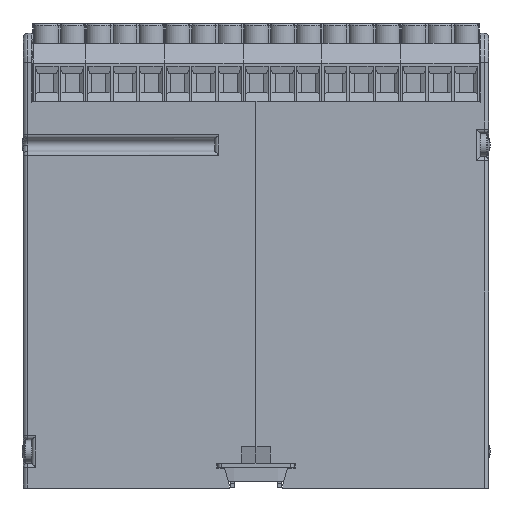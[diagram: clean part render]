
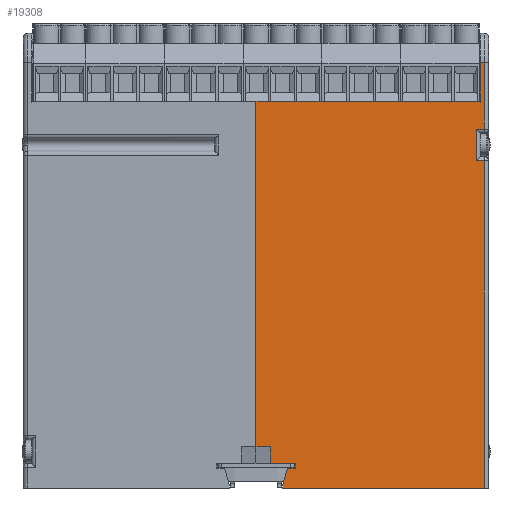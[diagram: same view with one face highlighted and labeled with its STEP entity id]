
A CAD part, front view. The second image highlights one B-rep face of the part: STEP entity #19308.
In plain terms, the highlighted planar face has unit normal (0, -1, 0) as drawn and (1, 0, 0) by its records, which use the part's own axes.
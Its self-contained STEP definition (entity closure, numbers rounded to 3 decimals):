
#410 = FACE_OUTER_BOUND ( 'NONE', #8206, .T. ) ;
#1633 = CARTESIAN_POINT ( 'NONE',  ( 37., -3., 2. ) ) ;
#1638 = PLANE ( 'NONE',  #21026 ) ;
#1643 = DIRECTION ( 'NONE',  ( -1., 0., 0. ) ) ;
#1644 = DIRECTION ( 'NONE',  ( 0., 0., 1. ) ) ;
#6245 = ORIENTED_EDGE ( 'NONE', *, *, #30631, .F. ) ;
#6248 = ORIENTED_EDGE ( 'NONE', *, *, #30629, .F. ) ;
#6250 = ORIENTED_EDGE ( 'NONE', *, *, #30624, .F. ) ;
#6253 = ORIENTED_EDGE ( 'NONE', *, *, #30633, .T. ) ;
#6256 = ORIENTED_EDGE ( 'NONE', *, *, #30618, .T. ) ;
#6258 = ORIENTED_EDGE ( 'NONE', *, *, #30594, .T. ) ;
#6261 = ORIENTED_EDGE ( 'NONE', *, *, #30608, .T. ) ;
#6263 = ORIENTED_EDGE ( 'NONE', *, *, #30612, .T. ) ;
#6266 = ORIENTED_EDGE ( 'NONE', *, *, #30616, .T. ) ;
#6269 = ORIENTED_EDGE ( 'NONE', *, *, #30637, .T. ) ;
#6271 = ORIENTED_EDGE ( 'NONE', *, *, #30627, .F. ) ;
#6274 = ORIENTED_EDGE ( 'NONE', *, *, #30635, .T. ) ;
#6276 = ORIENTED_EDGE ( 'NONE', *, *, #30639, .T. ) ;
#6279 = ORIENTED_EDGE ( 'NONE', *, *, #30641, .T. ) ;
#6282 = ORIENTED_EDGE ( 'NONE', *, *, #30643, .F. ) ;
#6284 = ORIENTED_EDGE ( 'NONE', *, *, #30645, .F. ) ;
#6287 = ORIENTED_EDGE ( 'NONE', *, *, #30647, .F. ) ;
#8206 = EDGE_LOOP ( 'NONE', ( #6245, #6248, #6250, #6253, #6256, #6258, #6261, #6263, #6266, #6269, #6271, #6274, #6276, #6279, #6282, #6284, #6287 ) ) ;
#9660 = CARTESIAN_POINT ( 'NONE',  ( 37., 1.8, 56.25 ) ) ;
#9663 = DIRECTION ( 'NONE',  ( 0., 0., 1. ) ) ;
#9674 = CARTESIAN_POINT ( 'NONE',  ( 37., -2.225, 49.75 ) ) ;
#9676 = CARTESIAN_POINT ( 'NONE',  ( 37., -3., 2. ) ) ;
#9678 = DIRECTION ( 'NONE',  ( 0., -0.966, 0.259 ) ) ;
#9681 = CARTESIAN_POINT ( 'NONE',  ( 37., -2.225, 49.75 ) ) ;
#9682 = DIRECTION ( 'NONE',  ( 0., -1., 0. ) ) ;
#9685 = CARTESIAN_POINT ( 'NONE',  ( 37., -3., 56.25 ) ) ;
#9687 = DIRECTION ( 'NONE',  ( 0., 0., -1. ) ) ;
#9688 = CARTESIAN_POINT ( 'NONE',  ( 37., 3., 46.75 ) ) ;
#9689 = DIRECTION ( 'NONE',  ( 0., -1., 0. ) ) ;
#9694 = CARTESIAN_POINT ( 'NONE',  ( 37., 3., 52.75 ) ) ;
#9695 = DIRECTION ( 'NONE',  ( 0., 1., 0. ) ) ;
#9698 = CARTESIAN_POINT ( 'NONE',  ( 37., 76.15, 2. ) ) ;
#9699 = DIRECTION ( 'NONE',  ( 0., 0., -1. ) ) ;
#9700 = CARTESIAN_POINT ( 'NONE',  ( 37., 7., 52.75 ) ) ;
#9701 = DIRECTION ( 'NONE',  ( 0., 0., 1. ) ) ;
#9703 = DIRECTION ( 'NONE',  ( 0., 1., 0. ) ) ;
#9704 = CARTESIAN_POINT ( 'NONE',  ( 37., 3., 56.25 ) ) ;
#9705 = DIRECTION ( 'NONE',  ( 0., 0., -1. ) ) ;
#9706 = CARTESIAN_POINT ( 'NONE',  ( 37., 83.85, 3. ) ) ;
#9707 = DIRECTION ( 'NONE',  ( 0., 1., 0. ) ) ;
#9708 = CARTESIAN_POINT ( 'NONE',  ( 37., -3., 1. ) ) ;
#9709 = DIRECTION ( 'NONE',  ( 0., 1., 0. ) ) ;
#9710 = CARTESIAN_POINT ( 'NONE',  ( 37., 83.85, 2. ) ) ;
#9711 = DIRECTION ( 'NONE',  ( 0., 0., -1. ) ) ;
#9712 = CARTESIAN_POINT ( 'NONE',  ( 37., -3., 1. ) ) ;
#9713 = DIRECTION ( 'NONE',  ( 0., 1., 0. ) ) ;
#9714 = CARTESIAN_POINT ( 'NONE',  ( 37., 100., 2. ) ) ;
#9715 = DIRECTION ( 'NONE',  ( 0., 0., -1. ) ) ;
#9717 = CARTESIAN_POINT ( 'NONE',  ( 37., -3., 2. ) ) ;
#9718 = DIRECTION ( 'NONE',  ( 0., 1., 0. ) ) ;
#9719 = CARTESIAN_POINT ( 'NONE',  ( 37., 90.6, 56.25 ) ) ;
#9720 = DIRECTION ( 'NONE',  ( 0., 0., -1. ) ) ;
#18661 = CARTESIAN_POINT ( 'NONE',  ( 37., 7., 56.25 ) ) ;
#18679 = CARTESIAN_POINT ( 'NONE',  ( 37., 100., 2. ) ) ;
#18752 = CARTESIAN_POINT ( 'NONE',  ( 37., 1.8, 48.672 ) ) ;
#18785 = CARTESIAN_POINT ( 'NONE',  ( 37., 76.15, 1. ) ) ;
#18881 = CARTESIAN_POINT ( 'NONE',  ( 37., 90.6, 2. ) ) ;
#18931 = CARTESIAN_POINT ( 'NONE',  ( 37., 3., 52.75 ) ) ;
#18973 = CARTESIAN_POINT ( 'NONE',  ( 37., 76.15, 3. ) ) ;
#19001 = CARTESIAN_POINT ( 'NONE',  ( 37., 90.6, 56.25 ) ) ;
#19029 = CARTESIAN_POINT ( 'NONE',  ( 37., 3., 46.75 ) ) ;
#19045 = CARTESIAN_POINT ( 'NONE',  ( 37., 83.85, 3. ) ) ;
#19308 = ADVANCED_FACE ( 'NONE', ( #410 ), #1638, .F. ) ;
#21026 = AXIS2_PLACEMENT_3D ( 'NONE', #1633, #1643, #1644 ) ;
#26816 = VERTEX_POINT ( 'NONE', #18661 ) ;
#26826 = VERTEX_POINT ( 'NONE', #18679 ) ;
#26866 = VERTEX_POINT ( 'NONE', #18752 ) ;
#26884 = VERTEX_POINT ( 'NONE', #18785 ) ;
#26976 = VERTEX_POINT ( 'NONE', #18881 ) ;
#27026 = VERTEX_POINT ( 'NONE', #18931 ) ;
#27068 = VERTEX_POINT ( 'NONE', #18973 ) ;
#27096 = VERTEX_POINT ( 'NONE', #19001 ) ;
#27124 = VERTEX_POINT ( 'NONE', #19029 ) ;
#27140 = VERTEX_POINT ( 'NONE', #19045 ) ;
#27293 = VERTEX_POINT ( 'NONE', #29090 ) ;
#27296 = VERTEX_POINT ( 'NONE', #29096 ) ;
#27320 = VERTEX_POINT ( 'NONE', #29137 ) ;
#27328 = VERTEX_POINT ( 'NONE', #29150 ) ;
#27344 = VERTEX_POINT ( 'NONE', #29178 ) ;
#27404 = VERTEX_POINT ( 'NONE', #29281 ) ;
#27419 = VERTEX_POINT ( 'NONE', #29306 ) ;
#29090 = CARTESIAN_POINT ( 'NONE',  ( 37., -3., 49.75 ) ) ;
#29096 = CARTESIAN_POINT ( 'NONE',  ( 37., -3., 1. ) ) ;
#29137 = CARTESIAN_POINT ( 'NONE',  ( 37., 83.85, 1. ) ) ;
#29150 = CARTESIAN_POINT ( 'NONE',  ( 37., -2.225, 49.75 ) ) ;
#29178 = CARTESIAN_POINT ( 'NONE',  ( 37., 1.8, 46.75 ) ) ;
#29281 = CARTESIAN_POINT ( 'NONE',  ( 37., 100., 1. ) ) ;
#29306 = CARTESIAN_POINT ( 'NONE',  ( 37., 7., 52.75 ) ) ;
#30594 = EDGE_CURVE ( 'NONE', #27344, #26866, #32203, .T. ) ;
#30608 = EDGE_CURVE ( 'NONE', #26866, #27328, #32225, .T. ) ;
#30612 = EDGE_CURVE ( 'NONE', #27328, #27293, #32242, .T. ) ;
#30616 = EDGE_CURVE ( 'NONE', #27293, #27296, #32227, .T. ) ;
#30618 = EDGE_CURVE ( 'NONE', #27124, #27344, #32248, .T. ) ;
#30624 = EDGE_CURVE ( 'NONE', #27026, #27419, #32254, .T. ) ;
#30627 = EDGE_CURVE ( 'NONE', #27068, #26884, #32258, .T. ) ;
#30629 = EDGE_CURVE ( 'NONE', #27419, #26816, #32260, .T. ) ;
#30631 = EDGE_CURVE ( 'NONE', #26816, #27096, #32237, .T. ) ;
#30633 = EDGE_CURVE ( 'NONE', #27026, #27124, #32264, .T. ) ;
#30635 = EDGE_CURVE ( 'NONE', #27068, #27140, #32266, .T. ) ;
#30637 = EDGE_CURVE ( 'NONE', #27296, #26884, #32268, .T. ) ;
#30639 = EDGE_CURVE ( 'NONE', #27140, #27320, #32270, .T. ) ;
#30641 = EDGE_CURVE ( 'NONE', #27320, #27404, #32272, .T. ) ;
#30643 = EDGE_CURVE ( 'NONE', #26826, #27404, #32274, .T. ) ;
#30645 = EDGE_CURVE ( 'NONE', #26976, #26826, #32276, .T. ) ;
#30647 = EDGE_CURVE ( 'NONE', #27096, #26976, #32278, .T. ) ;
#32203 = LINE ( 'NONE', #9660, #32224 ) ;
#32224 = VECTOR ( 'NONE', #9663, 1000. ) ;
#32225 = LINE ( 'NONE', #9674, #32238 ) ;
#32227 = LINE ( 'NONE', #9676, #32246 ) ;
#32237 = LINE ( 'NONE', #9685, #32262 ) ;
#32238 = VECTOR ( 'NONE', #9678, 1000. ) ;
#32242 = LINE ( 'NONE', #9681, #32243 ) ;
#32243 = VECTOR ( 'NONE', #9682, 1000. ) ;
#32246 = VECTOR ( 'NONE', #9687, 1000. ) ;
#32248 = LINE ( 'NONE', #9688, #32249 ) ;
#32249 = VECTOR ( 'NONE', #9689, 1000. ) ;
#32254 = LINE ( 'NONE', #9694, #32255 ) ;
#32255 = VECTOR ( 'NONE', #9695, 1000. ) ;
#32258 = LINE ( 'NONE', #9698, #32259 ) ;
#32259 = VECTOR ( 'NONE', #9699, 1000. ) ;
#32260 = LINE ( 'NONE', #9700, #32261 ) ;
#32261 = VECTOR ( 'NONE', #9701, 1000. ) ;
#32262 = VECTOR ( 'NONE', #9703, 1000. ) ;
#32264 = LINE ( 'NONE', #9704, #32265 ) ;
#32265 = VECTOR ( 'NONE', #9705, 1000. ) ;
#32266 = LINE ( 'NONE', #9706, #32267 ) ;
#32267 = VECTOR ( 'NONE', #9707, 1000. ) ;
#32268 = LINE ( 'NONE', #9708, #32269 ) ;
#32269 = VECTOR ( 'NONE', #9709, 1000. ) ;
#32270 = LINE ( 'NONE', #9710, #32271 ) ;
#32271 = VECTOR ( 'NONE', #9711, 1000. ) ;
#32272 = LINE ( 'NONE', #9712, #32273 ) ;
#32273 = VECTOR ( 'NONE', #9713, 1000. ) ;
#32274 = LINE ( 'NONE', #9714, #32275 ) ;
#32275 = VECTOR ( 'NONE', #9715, 1000. ) ;
#32276 = LINE ( 'NONE', #9717, #32277 ) ;
#32277 = VECTOR ( 'NONE', #9718, 1000. ) ;
#32278 = LINE ( 'NONE', #9719, #32279 ) ;
#32279 = VECTOR ( 'NONE', #9720, 1000. ) ;
